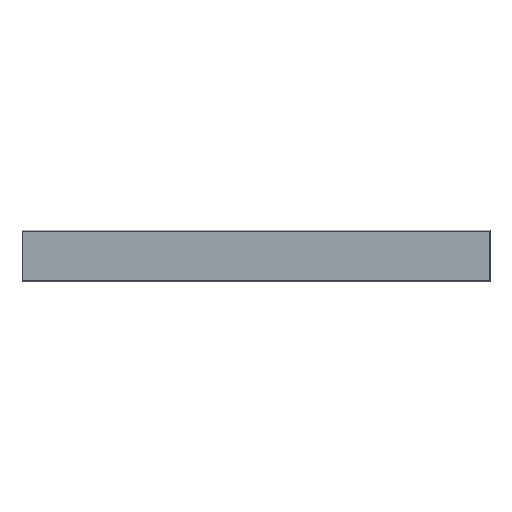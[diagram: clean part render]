
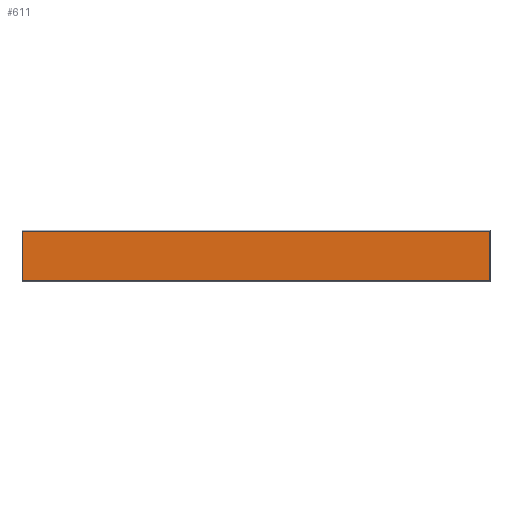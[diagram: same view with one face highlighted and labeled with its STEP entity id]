
A CAD part, top view. The second image highlights one B-rep face of the part: STEP entity #611.
In plain terms, the highlighted planar face has unit normal (0, 0, 1).
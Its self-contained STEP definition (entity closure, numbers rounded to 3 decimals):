
#361=DIRECTION('',(-1.,0.,0.));
#362=VECTOR('',#361,557.);
#363=CARTESIAN_POINT('',(278.5,29.5,3.));
#364=LINE('',#363,#362);
#368=DIRECTION('',(0.,1.,0.));
#369=VECTOR('',#368,59.);
#370=CARTESIAN_POINT('',(278.5,-29.5,3.));
#371=LINE('',#370,#369);
#375=DIRECTION('',(1.,0.,0.));
#376=VECTOR('',#375,557.);
#377=CARTESIAN_POINT('',(-278.5,-29.5,3.));
#378=LINE('',#377,#376);
#382=DIRECTION('',(0.,-1.,0.));
#383=VECTOR('',#382,59.);
#384=CARTESIAN_POINT('',(-278.5,29.5,3.));
#385=LINE('',#384,#383);
#400=CARTESIAN_POINT('',(278.5,29.5,3.));
#401=CARTESIAN_POINT('',(-278.5,29.5,3.));
#402=VERTEX_POINT('',#400);
#403=VERTEX_POINT('',#401);
#424=CARTESIAN_POINT('',(-278.5,-29.5,3.));
#425=CARTESIAN_POINT('',(278.5,-29.5,3.));
#426=VERTEX_POINT('',#424);
#427=VERTEX_POINT('',#425);
#599=CARTESIAN_POINT('',(0.,0.,3.));
#600=DIRECTION('',(0.,0.,1.));
#601=DIRECTION('',(1.,0.,0.));
#602=AXIS2_PLACEMENT_3D('',#599,#600,#601);
#603=PLANE('',#602);
#604=ORIENTED_EDGE('',*,*,#482,.F.);
#605=ORIENTED_EDGE('',*,*,#498,.F.);
#607=ORIENTED_EDGE('',*,*,#606,.F.);
#608=ORIENTED_EDGE('',*,*,#592,.F.);
#609=EDGE_LOOP('',(#604,#605,#607,#608));
#610=FACE_OUTER_BOUND('',#609,.F.);
#482=EDGE_CURVE('',#402,#403,#364,.T.);
#498=EDGE_CURVE('',#427,#402,#371,.T.);
#592=EDGE_CURVE('',#403,#426,#385,.T.);
#606=EDGE_CURVE('',#426,#427,#378,.T.);
#611=ADVANCED_FACE('',(#610),#603,.T.);
